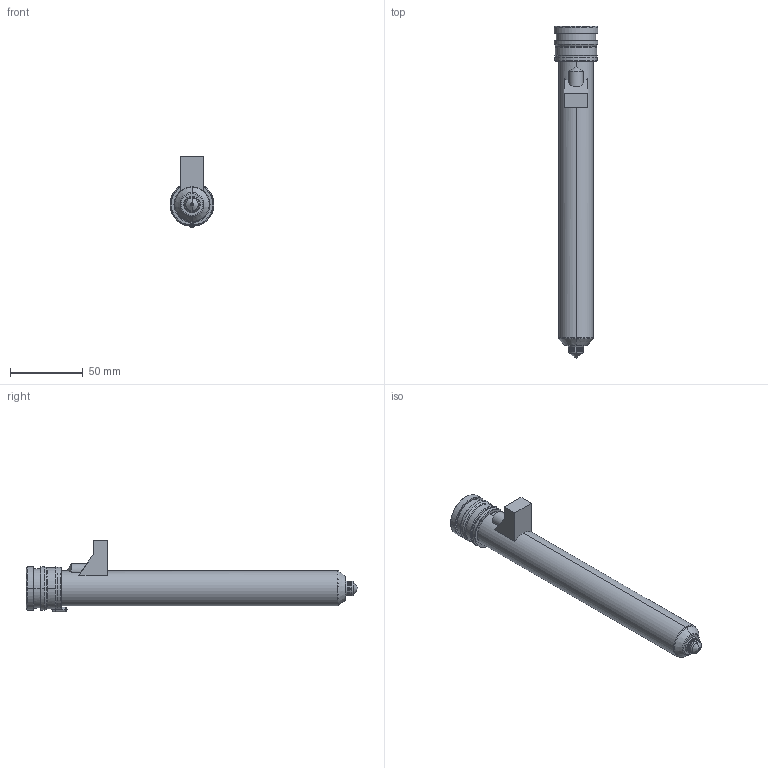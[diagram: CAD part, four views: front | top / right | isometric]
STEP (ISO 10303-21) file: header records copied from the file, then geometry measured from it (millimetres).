
FILE_DESCRIPTION((''),'2;1');
FILE_NAME('MPN-10-29-TX10-206-M','2026-02-05T12:52:13',('UPTIO'),('Thermoplay S.p.A.'),'CREO PARAMETRIC BY PTC INC, 2023494','CREO PARAMETRIC BY PTC INC, 2023494','');
FILE_SCHEMA(('CONFIG_CONTROL_DESIGN','SHAPE_APPEARANCE_LAYERS_GROUPS'));
Length unit declared in the file: millimetre
Products named in the file (1): MPN-10-29-TX10-206-M
Bounding box: 30 x 227.5 x 49 mm (x, y, z)
Volume: 70088.2 mm3; surface area: 71978.5 mm2
Topology: 3 solids, 5 shells, 541 faces, 1383 edges, 844 vertices
Faces by surface type: cylinder 177, plane 146, bspline 73, torus 67, cone 64, sphere 10, extrusion 4
Entity records: 29159 total; most frequent: CARTESIAN_POINT 13393, ORIENTED_EDGE 2748, DIRECTION 2568, EDGE_CURVE 1374, AXIS2_PLACEMENT_3D 1017, VERTEX_POINT 844, EDGE_LOOP 570, CIRCLE 552
